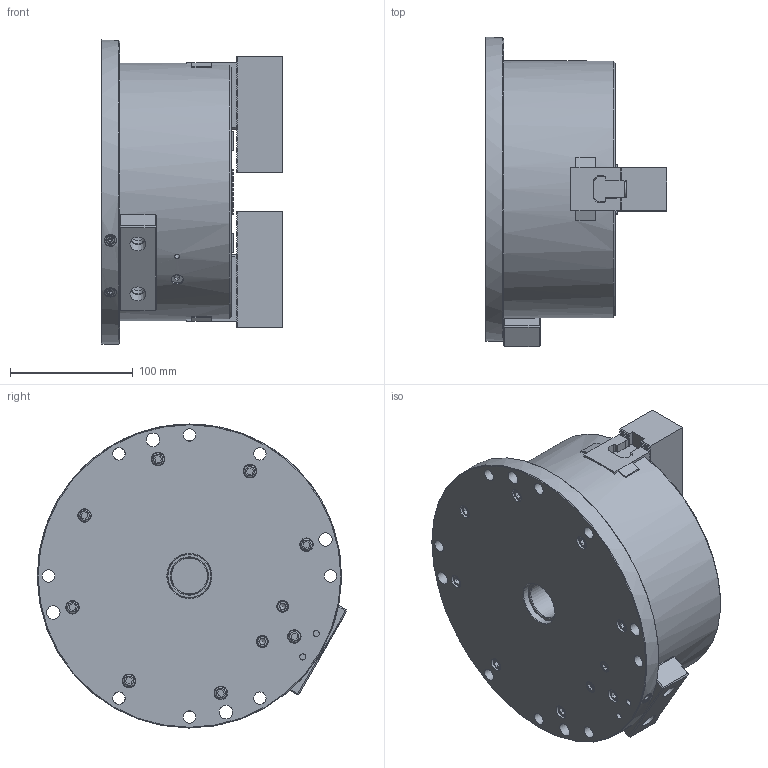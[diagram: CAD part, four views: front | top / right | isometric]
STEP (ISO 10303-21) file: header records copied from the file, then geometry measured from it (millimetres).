
FILE_DESCRIPTION (( 'STEP AP214' ), '1' );
FILE_NAME ('AT08_61P257225-0_UC.STEP', '2020-03-19T08:42:52', ( '' ), ( '' ), 'SwSTEP 2.0', 'SolidWorks 2017', '' );
FILE_SCHEMA (( 'AUTOMOTIVE_DESIGN' ));
Length unit declared in the file: millimetre
Products named in the file (14): 61P400744_TNUT_蹬怮椔; 61P314548-4_SOFT_JAW_蹬怮椔; B傾僫僣僉 M12亊352_~35; Part4^61P257225_AT08_ASSY_蹬怮椔; 61P314548-4_SOFT_JAW; B傾僫僣僉 M12亊352_~35_棉太倌TI佱UA; AT08_61P257225-0_UC; 61P400744_TNUT; Part4^61P257225_AT08_ASSY
Assembly tree (9 placements, depth 2):
  B傾僫僣僉 M12亊352_~35
  61P314548-4_SOFT_JAW
  AT08_61P257225-0_UC
    61P314548-4_SOFT_JAW_蹬怮椔  x2
    61P400744_TNUT_蹬怮椔  x2
    B傾僫僣僉 M12亊352_~35_棉太倌TI佱UA  x4
    Part4^61P257225_AT08_ASSY_蹬怮椔
  B傾僫僣僉 M12亊352_~35
  61P400744_TNUT
Bounding box: 148.2 x 252.19 x 248 mm (x, y, z)
Volume: 4061732.6 mm3; surface area: 290358.7 mm2
Topology: 9 solids, 56 shells, 3106 faces, 8541 edges, 5642 vertices
Faces by surface type: plane 2022, cylinder 883, cone 117, bspline 79, torus 3, sphere 2
Full cylindrical faces by diameter (mm): 1.9 x1, 3.4 x4, 4 x1, 4.2 x4, 5 x14, 5.5 x4, 6 x16, 6.6 x10, 6.8 x4, 8.5 x4, 9.5 x4, 10 x21, 10.7 x2, 11 x14, 12 x8, 13 x4, 15 x1, 18 x4, 19 x4, 30 x1, 36 x1, 37 x1, 210 x1, 248 x1
Entity records: 76483 total; most frequent: CARTESIAN_POINT 16808, ORIENTED_EDGE 12308, DIRECTION 11948, EDGE_CURVE 6154, VECTOR 4508, LINE 4508, VERTEX_POINT 4144, AXIS2_PLACEMENT_3D 3720
